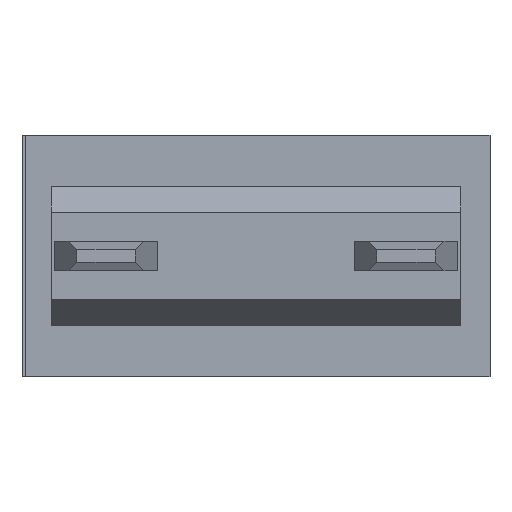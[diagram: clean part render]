
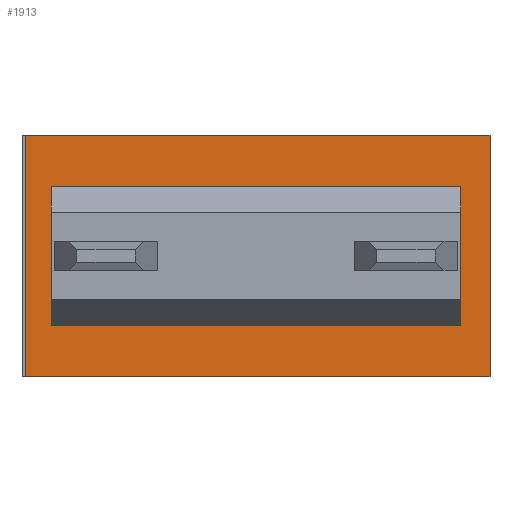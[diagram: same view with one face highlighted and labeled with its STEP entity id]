
A CAD part, front view. The second image highlights one B-rep face of the part: STEP entity #1913.
In plain terms, the highlighted planar face has unit normal (0, -1, 0).
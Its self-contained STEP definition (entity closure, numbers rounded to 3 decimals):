
#20=FACE_BOUND('',#297,.T.);
#190=FACE_OUTER_BOUND('',#296,.T.);
#296=EDGE_LOOP('',(#1712,#1713,#1714,#1715));
#297=EDGE_LOOP('',(#1716,#1717,#1718,#1719));
#427=LINE('',#2848,#666);
#443=LINE('',#2880,#682);
#468=LINE('',#2926,#707);
#527=LINE('',#3050,#766);
#534=LINE('',#3064,#773);
#536=LINE('',#3067,#775);
#537=LINE('',#3069,#776);
#538=LINE('',#3071,#777);
#666=VECTOR('',#2333,10.);
#682=VECTOR('',#2361,10.);
#707=VECTOR('',#2404,10.);
#766=VECTOR('',#2513,10.);
#773=VECTOR('',#2526,10.);
#775=VECTOR('',#2530,10.);
#776=VECTOR('',#2533,10.);
#777=VECTOR('',#2536,10.);
#881=VERTEX_POINT('',#2845);
#882=VERTEX_POINT('',#2847);
#891=VERTEX_POINT('',#2877);
#892=VERTEX_POINT('',#2879);
#943=VERTEX_POINT('',#3047);
#944=VERTEX_POINT('',#3049);
#947=VERTEX_POINT('',#3061);
#948=VERTEX_POINT('',#3063);
#1097=EDGE_CURVE('',#881,#882,#427,.T.);
#1113=EDGE_CURVE('',#892,#891,#443,.T.);
#1138=EDGE_CURVE('',#881,#892,#468,.T.);
#1197=EDGE_CURVE('',#944,#943,#527,.T.);
#1204=EDGE_CURVE('',#948,#947,#534,.T.);
#1206=EDGE_CURVE('',#947,#944,#536,.T.);
#1207=EDGE_CURVE('',#943,#948,#537,.T.);
#1208=EDGE_CURVE('',#882,#891,#538,.T.);
#1712=ORIENTED_EDGE('',*,*,#1138,.T.);
#1713=ORIENTED_EDGE('',*,*,#1113,.T.);
#1714=ORIENTED_EDGE('',*,*,#1208,.F.);
#1715=ORIENTED_EDGE('',*,*,#1097,.F.);
#1716=ORIENTED_EDGE('',*,*,#1204,.T.);
#1717=ORIENTED_EDGE('',*,*,#1206,.T.);
#1718=ORIENTED_EDGE('',*,*,#1197,.T.);
#1719=ORIENTED_EDGE('',*,*,#1207,.T.);
#1813=PLANE('',#2055);
#1913=ADVANCED_FACE('',(#190,#20),#1813,.T.);
#2055=AXIS2_PLACEMENT_3D('',#3070,#2534,#2535);
#2333=DIRECTION('',(-1.,0.,0.));
#2361=DIRECTION('',(-1.,0.,0.));
#2404=DIRECTION('',(0.,0.,1.));
#2513=DIRECTION('',(0.,0.,1.));
#2526=DIRECTION('',(0.,0.,-1.));
#2530=DIRECTION('',(-1.,0.,0.));
#2533=DIRECTION('',(1.,0.,0.));
#2534=DIRECTION('center_axis',(0.,-1.,0.));
#2535=DIRECTION('ref_axis',(0.,0.,1.));
#2536=DIRECTION('',(0.,0.,1.));
#2845=CARTESIAN_POINT('',(12.8,-1.,-3.3));
#2847=CARTESIAN_POINT('',(0.1,-1.,-3.3));
#2848=CARTESIAN_POINT('',(12.8,-1.,-3.3));
#2877=CARTESIAN_POINT('',(0.1,-1.,3.3));
#2879=CARTESIAN_POINT('',(12.8,-1.,3.3));
#2880=CARTESIAN_POINT('',(12.8,-1.,3.3));
#2926=CARTESIAN_POINT('',(12.8,-1.,-3.3));
#3047=CARTESIAN_POINT('',(0.8,-1.,1.9));
#3049=CARTESIAN_POINT('',(0.8,-1.,-1.9));
#3050=CARTESIAN_POINT('',(0.8,-1.,-0.7));
#3061=CARTESIAN_POINT('',(12.,-1.,-1.9));
#3063=CARTESIAN_POINT('',(12.,-1.,1.9));
#3064=CARTESIAN_POINT('',(12.,-1.,-2.6));
#3067=CARTESIAN_POINT('',(6.8,-1.,-1.9));
#3069=CARTESIAN_POINT('',(12.4,-1.,1.9));
#3070=CARTESIAN_POINT('Origin',(12.8,-1.,-3.3));
#3071=CARTESIAN_POINT('',(0.1,-1.,-3.3));
